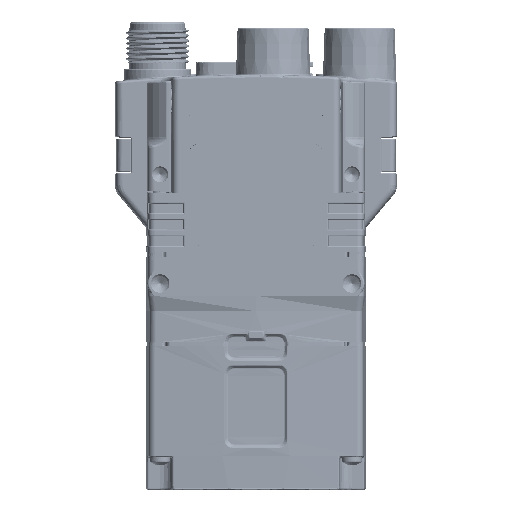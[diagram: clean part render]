
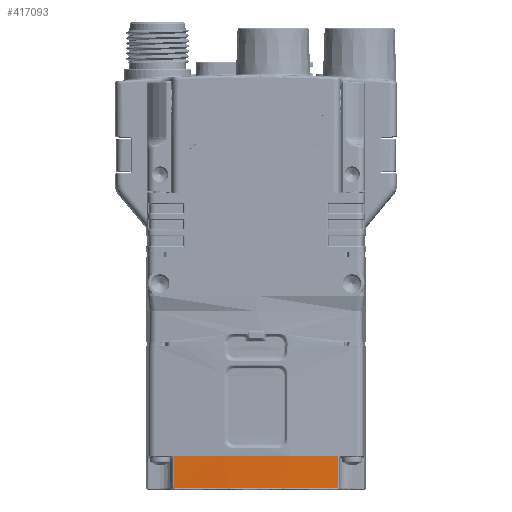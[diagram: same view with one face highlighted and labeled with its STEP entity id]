
A CAD part, front view. The second image highlights one B-rep face of the part: STEP entity #417093.
In plain terms, the highlighted conical face has half-angle 0.5 degrees and reference radius 232 mm.
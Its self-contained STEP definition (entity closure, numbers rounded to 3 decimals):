
#8127 = DIRECTION ( 'NONE',  ( 0., 0., 1. ) ) ;
#13041 = ORIENTED_EDGE ( 'NONE', *, *, #135114, .T. ) ;
#14039 = EDGE_CURVE ( 'NONE', #302062, #392174, #180596, .T. ) ;
#20770 = VECTOR ( 'NONE', #311672, 1000. ) ;
#23414 = DIRECTION ( 'NONE',  ( 0., 0., -1. ) ) ;
#23472 = CARTESIAN_POINT ( 'NONE',  ( 15.898, -10.436, -23.969 ) ) ;
#26339 = DIRECTION ( 'NONE',  ( -1., 0., 0. ) ) ;
#37620 = CARTESIAN_POINT ( 'NONE',  ( 19.492, -10.18, -21.85 ) ) ;
#50942 = LINE ( 'NONE', #124806, #456740 ) ;
#51835 = CIRCLE ( 'NONE', #114728, 232. ) ;
#58495 = CIRCLE ( 'NONE', #309000, 232. ) ;
#63824 = EDGE_CURVE ( 'NONE', #95703, #398762, #245477, .T. ) ;
#73011 = CARTESIAN_POINT ( 'NONE',  ( -15.861, -10.402, -28.203 ) ) ;
#78316 = CARTESIAN_POINT ( 'NONE',  ( -19.492, -10.18, -21.85 ) ) ;
#90169 = LINE ( 'NONE', #353431, #20770 ) ;
#95069 = ORIENTED_EDGE ( 'NONE', *, *, #63824, .T. ) ;
#95703 = VERTEX_POINT ( 'NONE', #240972 ) ;
#106204 = DIRECTION ( 'NONE',  ( 0., 0., 1. ) ) ;
#112117 = ORIENTED_EDGE ( 'NONE', *, *, #305235, .F. ) ;
#114728 = AXIS2_PLACEMENT_3D ( 'NONE', #250362, #208561, #26339 ) ;
#124806 = CARTESIAN_POINT ( 'NONE',  ( -385.38, -4349.68, 499000. ) ) ;
#125540 = AXIS2_PLACEMENT_3D ( 'NONE', #127657, #464782, #324304 ) ;
#127657 = CARTESIAN_POINT ( 'NONE',  ( 0., 221., -21.85 ) ) ;
#129027 = EDGE_CURVE ( 'NONE', #255388, #95703, #51835, .T. ) ;
#135114 = EDGE_CURVE ( 'NONE', #395254, #433979, #172029, .T. ) ;
#135266 = VERTEX_POINT ( 'NONE', #471449 ) ;
#152339 = CARTESIAN_POINT ( 'NONE',  ( 15.861, -10.402, -28.203 ) ) ;
#157551 = ORIENTED_EDGE ( 'NONE', *, *, #14039, .T. ) ;
#163153 = FACE_OUTER_BOUND ( 'NONE', #484533, .T. ) ;
#172029 = B_SPLINE_CURVE_WITH_KNOTS ( 'NONE', 3,
 ( #178459, #397625, #23472, #215350 ),
 .UNSPECIFIED., .F., .F.,
 ( 4, 4 ),
 ( 0., 1. ),
 .UNSPECIFIED. ) ;
#177406 = EDGE_CURVE ( 'NONE', #302062, #135266, #90169, .T. ) ;
#178459 = CARTESIAN_POINT ( 'NONE',  ( 15.861, -10.402, -28.203 ) ) ;
#180596 = CIRCLE ( 'NONE', #125540, 232. ) ;
#198454 = CONICAL_SURFACE ( 'NONE', #457763, 232., 0.009 ) ;
#204502 = CARTESIAN_POINT ( 'NONE',  ( -15.879, -10.419, -26.086 ) ) ;
#208561 = DIRECTION ( 'NONE',  ( 0., 0., 1. ) ) ;
#210526 = ORIENTED_EDGE ( 'NONE', *, *, #294156, .F. ) ;
#213876 = ORIENTED_EDGE ( 'NONE', *, *, #129027, .T. ) ;
#215350 = CARTESIAN_POINT ( 'NONE',  ( 15.916, -10.453, -21.853 ) ) ;
#240972 = CARTESIAN_POINT ( 'NONE',  ( -15.916, -10.453, -21.853 ) ) ;
#245477 = B_SPLINE_CURVE_WITH_KNOTS ( 'NONE', 3,
 ( #317770, #246299, #204502, #433310 ),
 .UNSPECIFIED., .F., .F.,
 ( 4, 4 ),
 ( 0., 1. ),
 .UNSPECIFIED. ) ;
#246299 = CARTESIAN_POINT ( 'NONE',  ( -15.898, -10.436, -23.969 ) ) ;
#247431 = CARTESIAN_POINT ( 'NONE',  ( 0., 221., -28.203 ) ) ;
#250362 = CARTESIAN_POINT ( 'NONE',  ( 0., 221., -21.853 ) ) ;
#255388 = VERTEX_POINT ( 'NONE', #465809 ) ;
#257198 = ORIENTED_EDGE ( 'NONE', *, *, #407555, .T. ) ;
#260572 = ORIENTED_EDGE ( 'NONE', *, *, #177406, .F. ) ;
#272486 = CARTESIAN_POINT ( 'NONE',  ( 15.916, -10.453, -21.853 ) ) ;
#274910 = DIRECTION ( 'NONE',  ( -0.001, -0.009, 1. ) ) ;
#293175 = CARTESIAN_POINT ( 'NONE',  ( 0., 221., -21.853 ) ) ;
#294156 = EDGE_CURVE ( 'NONE', #255388, #392174, #50942, .T. ) ;
#302062 = VERTEX_POINT ( 'NONE', #37620 ) ;
#305235 = EDGE_CURVE ( 'NONE', #395254, #398762, #397969, .T. ) ;
#309000 = AXIS2_PLACEMENT_3D ( 'NONE', #293175, #106204, #433574 ) ;
#311672 = DIRECTION ( 'NONE',  ( -0.001, 0.009, -1. ) ) ;
#317770 = CARTESIAN_POINT ( 'NONE',  ( -15.916, -10.453, -21.853 ) ) ;
#324304 = DIRECTION ( 'NONE',  ( -1., 0., 0. ) ) ;
#353431 = CARTESIAN_POINT ( 'NONE',  ( 385.38, -4349.68, 499000. ) ) ;
#379846 = DIRECTION ( 'NONE',  ( 1., 0., 0. ) ) ;
#392174 = VERTEX_POINT ( 'NONE', #78316 ) ;
#395254 = VERTEX_POINT ( 'NONE', #152339 ) ;
#397625 = CARTESIAN_POINT ( 'NONE',  ( 15.879, -10.419, -26.086 ) ) ;
#397969 = CIRCLE ( 'NONE', #429584, 231.945 ) ;
#398762 = VERTEX_POINT ( 'NONE', #73011 ) ;
#407555 = EDGE_CURVE ( 'NONE', #433979, #135266, #58495, .T. ) ;
#417093 = ADVANCED_FACE ( 'NONE', ( #163153 ), #198454, .T. ) ;
#429584 = AXIS2_PLACEMENT_3D ( 'NONE', #247431, #23414, #434442 ) ;
#433310 = CARTESIAN_POINT ( 'NONE',  ( -15.861, -10.402, -28.203 ) ) ;
#433574 = DIRECTION ( 'NONE',  ( -1., 0., 0. ) ) ;
#433979 = VERTEX_POINT ( 'NONE', #272486 ) ;
#434442 = DIRECTION ( 'NONE',  ( -1., 0., 0. ) ) ;
#456740 = VECTOR ( 'NONE', #274910, 1000. ) ;
#457763 = AXIS2_PLACEMENT_3D ( 'NONE', #463379, #8127, #379846 ) ;
#463379 = CARTESIAN_POINT ( 'NONE',  ( 0., 221., -21.85 ) ) ;
#464782 = DIRECTION ( 'NONE',  ( 0., 0., -1. ) ) ;
#465809 = CARTESIAN_POINT ( 'NONE',  ( -19.492, -10.18, -21.853 ) ) ;
#471449 = CARTESIAN_POINT ( 'NONE',  ( 19.492, -10.18, -21.853 ) ) ;
#484533 = EDGE_LOOP ( 'NONE', ( #95069, #112117, #13041, #257198, #260572, #157551, #210526, #213876 ) ) ;
